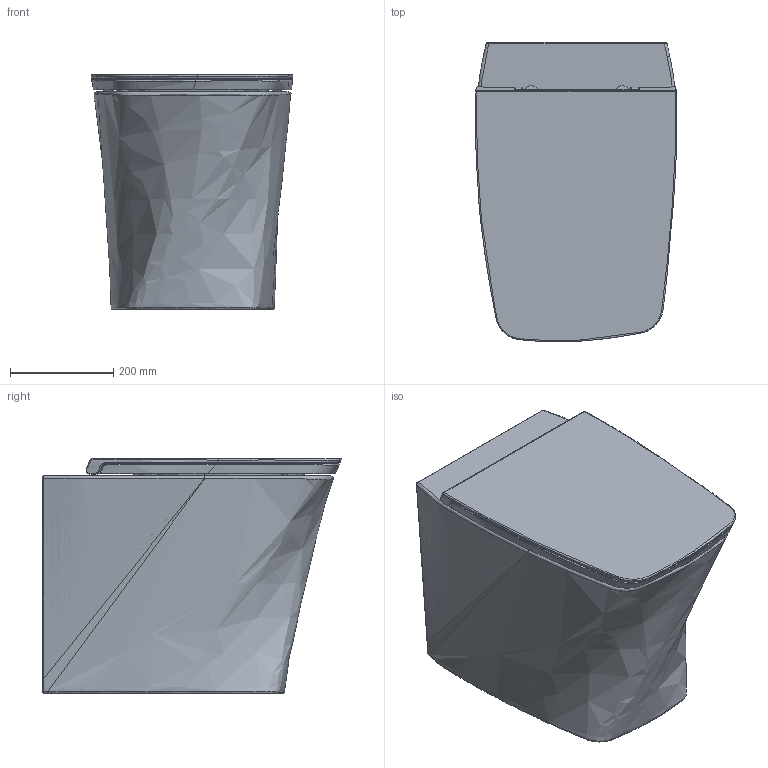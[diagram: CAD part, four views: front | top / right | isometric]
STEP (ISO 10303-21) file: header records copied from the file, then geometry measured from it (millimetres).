
FILE_DESCRIPTION (( 'STEP AP203' ), '1' );
FILE_NAME ('AssiemeHERAWC.STEP', '2018-09-18T08:44:02', ( '' ), ( '' ), 'SwSTEP 2.0', 'SolidWorks 2018', '' );
FILE_SCHEMA (( 'CONFIG_CONTROL_DESIGN' ));
Length unit declared in the file: millimetre
Products named in the file (5): AssiemeHERAWC; HERA WC; CW LBSKN AZZURRA P; cerniera ESAGONALE; Assieme copriwater HERA
Assembly tree (5 placements, depth 3):
  AssiemeHERAWC
    HERA WC
    Assieme copriwater HERA
      CW LBSKN AZZURRA P
      cerniera ESAGONALE  x2
Bounding box: 389.38 x 578.48 x 453 mm (x, y, z)
Volume: 55225052.4 mm3; surface area: 1813357.3 mm2
Topology: 4 solids, 4 shells, 469 faces, 1169 edges, 703 vertices
Faces by surface type: bspline 221, cylinder 104, plane 64, torus 41, cone 37, sphere 2
Full cylindrical faces by diameter (mm): 8 x44, 12 x8, 16 x4, 30 x2, 55 x1, 100 x1
Entity records: 69336 total; most frequent: CARTESIAN_POINT 61070, ORIENTED_EDGE 1926, DIRECTION 1137, EDGE_CURVE 963, VERTEX_POINT 595, AXIS2_PLACEMENT_3D 504, B_SPLINE_CURVE_WITH_KNOTS 503, EDGE_LOOP 454
